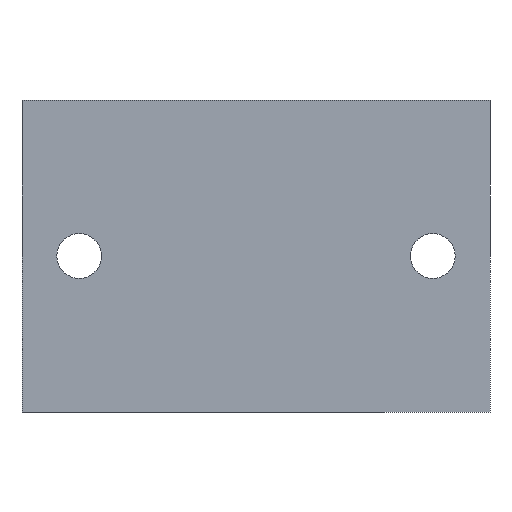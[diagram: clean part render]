
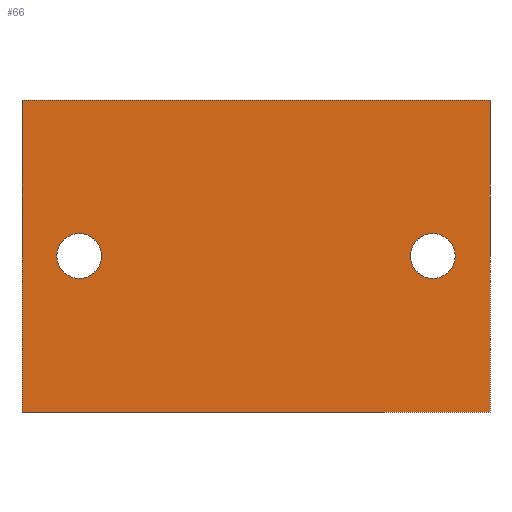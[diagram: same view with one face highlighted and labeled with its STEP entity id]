
A CAD part, front view. The second image highlights one B-rep face of the part: STEP entity #66.
In plain terms, the highlighted planar face has unit normal (0, -1, 0).
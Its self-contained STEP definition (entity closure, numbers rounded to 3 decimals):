
#20 = CIRCLE ( 'NONE', #723, 2.15 ) ;
#29 = CARTESIAN_POINT ( 'NONE',  ( -22.5, -19., 15. ) ) ;
#35 = CARTESIAN_POINT ( 'NONE',  ( 17., -19., 0. ) ) ;
#37 = LINE ( 'NONE', #229, #834 ) ;
#54 = ORIENTED_EDGE ( 'NONE', *, *, #760, .T. ) ;
#66 = ADVANCED_FACE ( 'NONE', ( #555, #613, #832 ), #280, .F. ) ;
#68 = CIRCLE ( 'NONE', #867, 2.15 ) ;
#69 = VECTOR ( 'NONE', #147, 1000. ) ;
#72 = CARTESIAN_POINT ( 'NONE',  ( -22.5, -19., 15. ) ) ;
#86 = CARTESIAN_POINT ( 'NONE',  ( -17., -19., 0. ) ) ;
#89 = AXIS2_PLACEMENT_3D ( 'NONE', #142, #620, #818 ) ;
#96 = CIRCLE ( 'NONE', #828, 2.15 ) ;
#116 = ORIENTED_EDGE ( 'NONE', *, *, #843, .F. ) ;
#127 = EDGE_CURVE ( 'NONE', #488, #332, #68, .T. ) ;
#142 = CARTESIAN_POINT ( 'NONE',  ( 17., -19., 0. ) ) ;
#147 = DIRECTION ( 'NONE',  ( 0., 0., -1. ) ) ;
#167 = DIRECTION ( 'NONE',  ( 1., 0., 0. ) ) ;
#169 = CARTESIAN_POINT ( 'NONE',  ( 17., -19., 2.15 ) ) ;
#178 = VERTEX_POINT ( 'NONE', #718 ) ;
#179 = CARTESIAN_POINT ( 'NONE',  ( -17., -19., 0. ) ) ;
#190 = ORIENTED_EDGE ( 'NONE', *, *, #593, .F. ) ;
#211 = DIRECTION ( 'NONE',  ( -1., 0., 0. ) ) ;
#229 = CARTESIAN_POINT ( 'NONE',  ( -22.5, -19., -15. ) ) ;
#250 = VERTEX_POINT ( 'NONE', #483 ) ;
#258 = LINE ( 'NONE', #72, #610 ) ;
#280 = PLANE ( 'NONE',  #318 ) ;
#285 = CARTESIAN_POINT ( 'NONE',  ( 22.5, -19., 15. ) ) ;
#295 = CARTESIAN_POINT ( 'NONE',  ( -17., -19., 2.15 ) ) ;
#313 = EDGE_CURVE ( 'NONE', #445, #178, #614, .T. ) ;
#317 = EDGE_LOOP ( 'NONE', ( #720, #116 ) ) ;
#318 = AXIS2_PLACEMENT_3D ( 'NONE', #29, #823, #211 ) ;
#332 = VERTEX_POINT ( 'NONE', #295 ) ;
#344 = DIRECTION ( 'NONE',  ( 0., -1., 0. ) ) ;
#371 = DIRECTION ( 'NONE',  ( 0., 0., -1. ) ) ;
#399 = ORIENTED_EDGE ( 'NONE', *, *, #313, .T. ) ;
#415 = EDGE_CURVE ( 'NONE', #542, #250, #96, .T. ) ;
#417 = DIRECTION ( 'NONE',  ( 0., 0., -1. ) ) ;
#433 = DIRECTION ( 'NONE',  ( 0., 0., -1. ) ) ;
#437 = ORIENTED_EDGE ( 'NONE', *, *, #415, .F. ) ;
#441 = DIRECTION ( 'NONE',  ( 0., -1., 0. ) ) ;
#445 = VERTEX_POINT ( 'NONE', #598 ) ;
#483 = CARTESIAN_POINT ( 'NONE',  ( 17., -19., -2.15 ) ) ;
#488 = VERTEX_POINT ( 'NONE', #669 ) ;
#497 = LINE ( 'NONE', #551, #795 ) ;
#511 = EDGE_CURVE ( 'NONE', #445, #588, #258, .T. ) ;
#513 = ORIENTED_EDGE ( 'NONE', *, *, #768, .F. ) ;
#530 = VERTEX_POINT ( 'NONE', #565 ) ;
#542 = VERTEX_POINT ( 'NONE', #169 ) ;
#551 = CARTESIAN_POINT ( 'NONE',  ( 22.5, -19., 15. ) ) ;
#555 = FACE_BOUND ( 'NONE', #317, .T. ) ;
#565 = CARTESIAN_POINT ( 'NONE',  ( 22.5, -19., -15. ) ) ;
#575 = DIRECTION ( 'NONE',  ( 0., -1., 0. ) ) ;
#588 = VERTEX_POINT ( 'NONE', #285 ) ;
#593 = EDGE_CURVE ( 'NONE', #250, #542, #749, .T. ) ;
#598 = CARTESIAN_POINT ( 'NONE',  ( -22.5, -19., 15. ) ) ;
#610 = VECTOR ( 'NONE', #871, 1000. ) ;
#613 = FACE_BOUND ( 'NONE', #763, .T. ) ;
#614 = LINE ( 'NONE', #829, #69 ) ;
#620 = DIRECTION ( 'NONE',  ( 0., -1., 0. ) ) ;
#644 = EDGE_LOOP ( 'NONE', ( #54, #513, #856, #399 ) ) ;
#669 = CARTESIAN_POINT ( 'NONE',  ( -17., -19., -2.15 ) ) ;
#718 = CARTESIAN_POINT ( 'NONE',  ( -22.5, -19., -15. ) ) ;
#720 = ORIENTED_EDGE ( 'NONE', *, *, #127, .F. ) ;
#723 = AXIS2_PLACEMENT_3D ( 'NONE', #86, #344, #417 ) ;
#749 = CIRCLE ( 'NONE', #89, 2.15 ) ;
#760 = EDGE_CURVE ( 'NONE', #178, #530, #37, .T. ) ;
#763 = EDGE_LOOP ( 'NONE', ( #190, #437 ) ) ;
#768 = EDGE_CURVE ( 'NONE', #588, #530, #497, .T. ) ;
#795 = VECTOR ( 'NONE', #840, 1000. ) ;
#818 = DIRECTION ( 'NONE',  ( 0., 0., -1. ) ) ;
#823 = DIRECTION ( 'NONE',  ( 0., 1., 0. ) ) ;
#828 = AXIS2_PLACEMENT_3D ( 'NONE', #35, #575, #371 ) ;
#829 = CARTESIAN_POINT ( 'NONE',  ( -22.5, -19., 15. ) ) ;
#832 = FACE_OUTER_BOUND ( 'NONE', #644, .T. ) ;
#834 = VECTOR ( 'NONE', #167, 1000. ) ;
#840 = DIRECTION ( 'NONE',  ( 0., 0., -1. ) ) ;
#843 = EDGE_CURVE ( 'NONE', #332, #488, #20, .T. ) ;
#856 = ORIENTED_EDGE ( 'NONE', *, *, #511, .F. ) ;
#867 = AXIS2_PLACEMENT_3D ( 'NONE', #179, #441, #433 ) ;
#871 = DIRECTION ( 'NONE',  ( 1., 0., 0. ) ) ;
